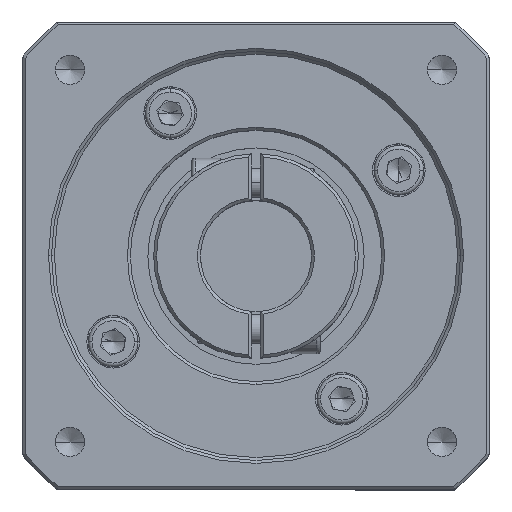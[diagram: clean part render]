
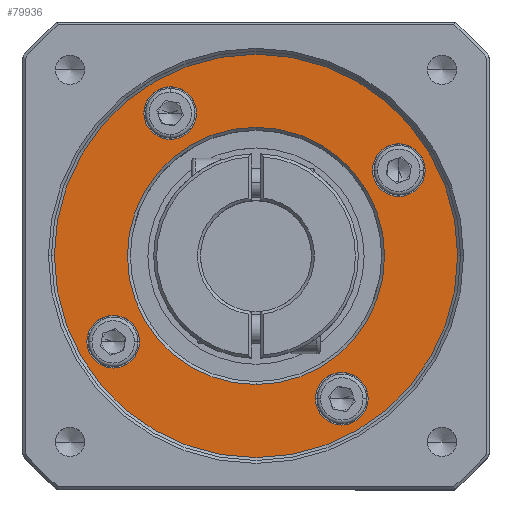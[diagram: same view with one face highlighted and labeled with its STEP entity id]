
A CAD part, top view. The second image highlights one B-rep face of the part: STEP entity #79936.
In plain terms, the highlighted planar face has unit normal (0, 0, 1).
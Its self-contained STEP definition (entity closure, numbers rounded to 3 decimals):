
#708 = CARTESIAN_POINT ( 'NONE',  ( -66.793, 10.913, 154.502 ) ) ;
#1897 = DIRECTION ( 'NONE',  ( 0., 0., -1. ) ) ;
#2500 = DIRECTION ( 'NONE',  ( 0., 0., -1. ) ) ;
#4057 = ORIENTED_EDGE ( 'NONE', *, *, #63106, .T. ) ;
#4463 = AXIS2_PLACEMENT_3D ( 'NONE', #79502, #39315, #86260 ) ;
#4935 = CIRCLE ( 'NONE', #49541, 4.5 ) ;
#5365 = DIRECTION ( 'NONE',  ( 1., 0., 0. ) ) ;
#6037 = FACE_BOUND ( 'NONE', #74421, .T. ) ;
#7539 = EDGE_LOOP ( 'NONE', ( #59992, #86840 ) ) ;
#9233 = AXIS2_PLACEMENT_3D ( 'NONE', #79304, #39119, #86077 ) ;
#9246 = CIRCLE ( 'NONE', #9233, 34.5 ) ;
#11765 = VERTEX_POINT ( 'NONE', #35811 ) ;
#12063 = DIRECTION ( 'NONE',  ( 0., 0., -1. ) ) ;
#16399 = AXIS2_PLACEMENT_3D ( 'NONE', #63019, #22817, #69761 ) ;
#16829 = VERTEX_POINT ( 'NONE', #44746 ) ;
#17221 = ORIENTED_EDGE ( 'NONE', *, *, #38374, .T. ) ;
#18168 = DIRECTION ( 'NONE',  ( 0., 0., -1. ) ) ;
#18760 = VERTEX_POINT ( 'NONE', #83394 ) ;
#19178 = AXIS2_PLACEMENT_3D ( 'NONE', #42731, #2500, #49445 ) ;
#19305 = CIRCLE ( 'NONE', #62520, 4.5 ) ;
#21092 = CIRCLE ( 'NONE', #68053, 4.5 ) ;
#21145 = EDGE_CURVE ( 'NONE', #18760, #16829, #38005, .T. ) ;
#21772 = FACE_BOUND ( 'NONE', #7539, .T. ) ;
#21943 = DIRECTION ( 'NONE',  ( 0., 0., 1. ) ) ;
#21993 = CARTESIAN_POINT ( 'NONE',  ( -3.363, 25.592, 154.502 ) ) ;
#22082 = AXIS2_PLACEMENT_3D ( 'NONE', #85838, #45618, #5365 ) ;
#22548 = CARTESIAN_POINT ( 'NONE',  ( -22.114, -13.516, 154.502 ) ) ;
#22817 = DIRECTION ( 'NONE',  ( 0., 0., 1. ) ) ;
#23626 = EDGE_CURVE ( 'NONE', #33884, #47532, #9246, .T. ) ;
#24959 = CIRCLE ( 'NONE', #4463, 22. ) ;
#26880 = AXIS2_PLACEMENT_3D ( 'NONE', #62169, #21943, #68889 ) ;
#27235 = EDGE_CURVE ( 'NONE', #29744, #76911, #65854, .T. ) ;
#27444 = VERTEX_POINT ( 'NONE', #32861 ) ;
#27535 = EDGE_CURVE ( 'NONE', #11765, #47447, #43758, .T. ) ;
#27955 = CARTESIAN_POINT ( 'NONE',  ( -61.222, -3.766, 154.502 ) ) ;
#28595 = AXIS2_PLACEMENT_3D ( 'NONE', #58339, #18168, #65111 ) ;
#29504 = VERTEX_POINT ( 'NONE', #22548 ) ;
#29744 = VERTEX_POINT ( 'NONE', #31648 ) ;
#31648 = CARTESIAN_POINT ( 'NONE',  ( -51.471, 35.342, 154.502 ) ) ;
#31887 = DIRECTION ( 'NONE',  ( 0., 0., -1. ) ) ;
#32788 = DIRECTION ( 'NONE',  ( 0., 0., -1. ) ) ;
#32861 = CARTESIAN_POINT ( 'NONE',  ( -12.363, 25.592, 154.502 ) ) ;
#33436 = DIRECTION ( 'NONE',  ( 0., 0., -1. ) ) ;
#33454 = CIRCLE ( 'NONE', #47557, 4.5 ) ;
#33884 = VERTEX_POINT ( 'NONE', #708 ) ;
#35811 = CARTESIAN_POINT ( 'NONE',  ( -52.222, -3.766, 154.502 ) ) ;
#35854 = CARTESIAN_POINT ( 'NONE',  ( -46.971, 35.342, 154.502 ) ) ;
#36204 = EDGE_CURVE ( 'NONE', #76911, #29744, #86823, .T. ) ;
#36995 = EDGE_LOOP ( 'NONE', ( #64338, #17221 ) ) ;
#38005 = CIRCLE ( 'NONE', #19178, 22. ) ;
#38374 = EDGE_CURVE ( 'NONE', #27444, #53598, #19305, .T. ) ;
#39119 = DIRECTION ( 'NONE',  ( 0., 0., 1. ) ) ;
#39315 = DIRECTION ( 'NONE',  ( 0., 0., -1. ) ) ;
#39676 = FACE_OUTER_BOUND ( 'NONE', #63343, .T. ) ;
#42127 = CARTESIAN_POINT ( 'NONE',  ( -17.614, -13.516, 154.502 ) ) ;
#42576 = DIRECTION ( 'NONE',  ( 1., 0., 0. ) ) ;
#42731 = CARTESIAN_POINT ( 'NONE',  ( -32.293, 10.913, 154.502 ) ) ;
#42908 = CARTESIAN_POINT ( 'NONE',  ( -13.114, -13.516, 154.502 ) ) ;
#43422 = EDGE_CURVE ( 'NONE', #60929, #29504, #21092, .T. ) ;
#43641 = ORIENTED_EDGE ( 'NONE', *, *, #27235, .T. ) ;
#43758 = CIRCLE ( 'NONE', #62497, 4.5 ) ;
#43871 = EDGE_CURVE ( 'NONE', #29504, #60929, #4935, .T. ) ;
#44746 = CARTESIAN_POINT ( 'NONE',  ( -32.293, 32.913, 154.502 ) ) ;
#45618 = DIRECTION ( 'NONE',  ( 0., 0., -1. ) ) ;
#47447 = VERTEX_POINT ( 'NONE', #27955 ) ;
#47532 = VERTEX_POINT ( 'NONE', #62558 ) ;
#47557 = AXIS2_PLACEMENT_3D ( 'NONE', #52273, #12063, #58992 ) ;
#47707 = CIRCLE ( 'NONE', #16399, 34.5 ) ;
#48855 = DIRECTION ( 'NONE',  ( 1., 0., 0. ) ) ;
#49445 = DIRECTION ( 'NONE',  ( 0., -1., 0. ) ) ;
#49541 = AXIS2_PLACEMENT_3D ( 'NONE', #72014, #31887, #78779 ) ;
#52273 = CARTESIAN_POINT ( 'NONE',  ( -56.722, -3.766, 154.502 ) ) ;
#53598 = VERTEX_POINT ( 'NONE', #21993 ) ;
#54354 = CARTESIAN_POINT ( 'NONE',  ( -42.471, 35.342, 154.502 ) ) ;
#56949 = ORIENTED_EDGE ( 'NONE', *, *, #43422, .T. ) ;
#57223 = ORIENTED_EDGE ( 'NONE', *, *, #21145, .T. ) ;
#57484 = FACE_BOUND ( 'NONE', #85574, .T. ) ;
#58339 = CARTESIAN_POINT ( 'NONE',  ( -46.971, 35.342, 154.502 ) ) ;
#58992 = DIRECTION ( 'NONE',  ( 1., 0., 0. ) ) ;
#59615 = FACE_BOUND ( 'NONE', #36995, .T. ) ;
#59992 = ORIENTED_EDGE ( 'NONE', *, *, #27535, .T. ) ;
#60929 = VERTEX_POINT ( 'NONE', #42908 ) ;
#61796 = ORIENTED_EDGE ( 'NONE', *, *, #36204, .T. ) ;
#62169 = CARTESIAN_POINT ( 'NONE',  ( -32.293, 10.913, 154.502 ) ) ;
#62497 = AXIS2_PLACEMENT_3D ( 'NONE', #73544, #33436, #80308 ) ;
#62520 = AXIS2_PLACEMENT_3D ( 'NONE', #72912, #32788, #79681 ) ;
#62558 = CARTESIAN_POINT ( 'NONE',  ( 2.207, 10.913, 154.502 ) ) ;
#63019 = CARTESIAN_POINT ( 'NONE',  ( -32.293, 10.913, 154.502 ) ) ;
#63106 = EDGE_CURVE ( 'NONE', #47532, #33884, #47707, .T. ) ;
#63343 = EDGE_LOOP ( 'NONE', ( #4057, #69340 ) ) ;
#64338 = ORIENTED_EDGE ( 'NONE', *, *, #83420, .T. ) ;
#65111 = DIRECTION ( 'NONE',  ( 1., 0., 0. ) ) ;
#65854 = CIRCLE ( 'NONE', #83838, 4.5 ) ;
#68053 = AXIS2_PLACEMENT_3D ( 'NONE', #42127, #1897, #48855 ) ;
#68889 = DIRECTION ( 'NONE',  ( 1., 0., 0. ) ) ;
#69340 = ORIENTED_EDGE ( 'NONE', *, *, #23626, .T. ) ;
#69761 = DIRECTION ( 'NONE',  ( 1., 0., 0. ) ) ;
#69996 = ORIENTED_EDGE ( 'NONE', *, *, #81282, .T. ) ;
#72014 = CARTESIAN_POINT ( 'NONE',  ( -17.614, -13.516, 154.502 ) ) ;
#72912 = CARTESIAN_POINT ( 'NONE',  ( -7.863, 25.592, 154.502 ) ) ;
#73544 = CARTESIAN_POINT ( 'NONE',  ( -56.722, -3.766, 154.502 ) ) ;
#74421 = EDGE_LOOP ( 'NONE', ( #56949, #81564 ) ) ;
#75327 = FACE_BOUND ( 'NONE', #80087, .T. ) ;
#75346 = PLANE ( 'NONE',  #26880 ) ;
#76911 = VERTEX_POINT ( 'NONE', #54354 ) ;
#78779 = DIRECTION ( 'NONE',  ( 1., 0., 0. ) ) ;
#79304 = CARTESIAN_POINT ( 'NONE',  ( -32.293, 10.913, 154.502 ) ) ;
#79502 = CARTESIAN_POINT ( 'NONE',  ( -32.293, 10.913, 154.502 ) ) ;
#79681 = DIRECTION ( 'NONE',  ( 1., 0., 0. ) ) ;
#79936 = ADVANCED_FACE ( 'NONE', ( #57484, #39676, #6037, #59615, #21772, #75327 ), #75346, .T. ) ;
#80025 = CIRCLE ( 'NONE', #22082, 4.5 ) ;
#80087 = EDGE_LOOP ( 'NONE', ( #61796, #43641 ) ) ;
#80308 = DIRECTION ( 'NONE',  ( 1., 0., 0. ) ) ;
#81282 = EDGE_CURVE ( 'NONE', #16829, #18760, #24959, .T. ) ;
#81564 = ORIENTED_EDGE ( 'NONE', *, *, #43871, .T. ) ;
#82760 = DIRECTION ( 'NONE',  ( 0., 0., -1. ) ) ;
#83394 = CARTESIAN_POINT ( 'NONE',  ( -32.293, -11.087, 154.502 ) ) ;
#83420 = EDGE_CURVE ( 'NONE', #53598, #27444, #80025, .T. ) ;
#83838 = AXIS2_PLACEMENT_3D ( 'NONE', #35854, #82760, #42576 ) ;
#84623 = EDGE_CURVE ( 'NONE', #47447, #11765, #33454, .T. ) ;
#85574 = EDGE_LOOP ( 'NONE', ( #57223, #69996 ) ) ;
#85838 = CARTESIAN_POINT ( 'NONE',  ( -7.863, 25.592, 154.502 ) ) ;
#86077 = DIRECTION ( 'NONE',  ( 1., 0., 0. ) ) ;
#86260 = DIRECTION ( 'NONE',  ( 0., -1., 0. ) ) ;
#86823 = CIRCLE ( 'NONE', #28595, 4.5 ) ;
#86840 = ORIENTED_EDGE ( 'NONE', *, *, #84623, .T. ) ;
